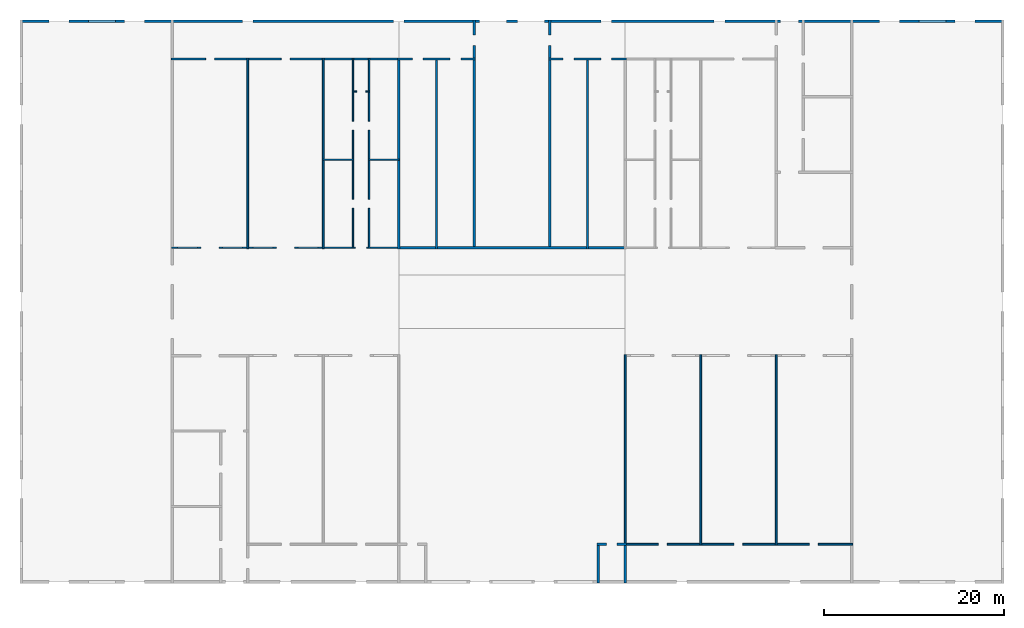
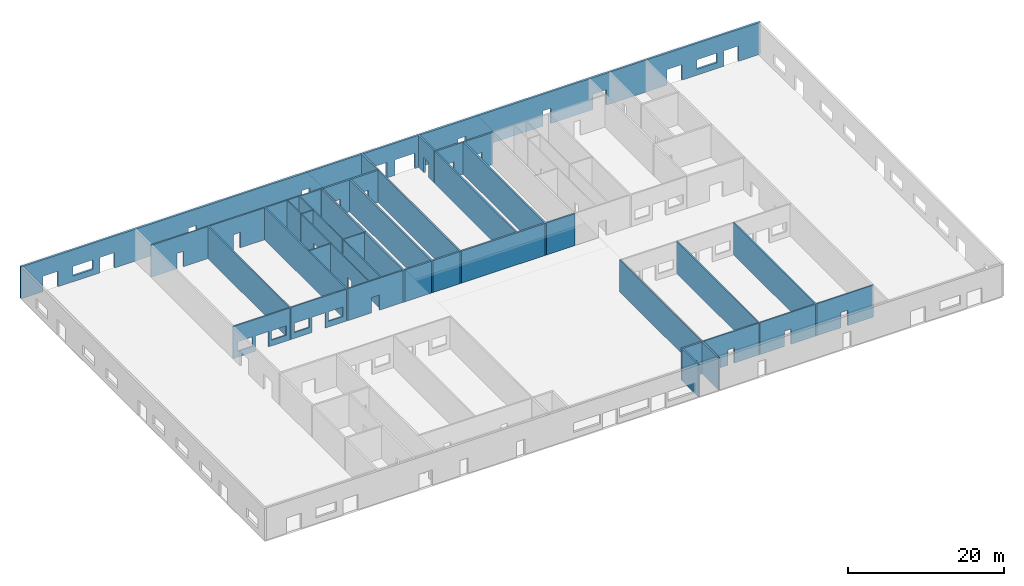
# One storey, part 2 of 3: 25 walls, 46 openings.
"""IFC4 building model written with IfcOpenShell, lengths in millimetres."""

from ifc_helpers import new_model, si_unit, frame, origin_with_axes, place, context, subcontext, project, spatial, indexed_curve, outline, extrude, type_object, element, save


model = new_model("IFC4")

# Units and contexts
model_context = context("Model", 3, precision=1e-05, world=origin_with_axes())
body_context = subcontext(model_context, "Body", "Model", "MODEL_VIEW")
ifc_project = project(units=[si_unit("AREAUNIT", "SQUARE_METRE"), si_unit("VOLUMEUNIT", "CUBIC_METRE"), si_unit("LENGTHUNIT", "METRE", prefix="MILLI")], contexts=[model_context])

# Site, building, storey
site = spatial("IfcSite", under=ifc_project, Name="PIN 00000000 (sample)")
building = spatial("IfcBuilding", under=site, Name="Sample Shopping Mall")
storey = spatial("IfcBuildingStorey", under=building, Name="Ground Floor", Elevation=0.0)

# Wall, openings
wall_type_1 = type_object("IfcWallType", Name="WT-300", PredefinedType="SOLIDWALL")
wall_1_placement = place(None, frame((5250.0, 77849.99999999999, 0.0), z_axis=(0.0, 0.0, 1.0), x_axis=(1.0, 0.0, 0.0)))
wall_1 = element("IfcWall", 1, at=wall_1_placement, inside=storey, type_object=wall_type_1, Name="W26", context=body_context, shape_type="SweptSolid", body=[
    extrude(outline(indexed_curve([(0.0, 0.0), (0.0, 300.0), (109499.99999999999, 300.0), (109499.99999999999, 0.0), (0.0, 0.0)], self_intersect=False)), origin_with_axes(), (0.0, 0.0, 1.0), 5000.0),
])
opening_1_placement = place(wall_1_placement, frame((3250.0, -99.9999999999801, 0.0), z_axis=(0.0, 0.0, 1.0), x_axis=(1.0, 0.0, 0.0)))
element("IfcOpeningElement", 2, at=opening_1_placement, cuts=wall_1, Name="D12-opening", context=body_context, shape_type="SweptSolid", body=[
    extrude(outline(indexed_curve([(0.0, 0.0), (0.0, 500.0), (1100.0, 500.0), (1100.0, 0.0), (0.0, 0.0)], self_intersect=False)), origin_with_axes(), (0.0, 0.0, 1.0), 2400.0),
])
opening_2_placement = place(wall_1_placement, frame((4350.000000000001, -99.9999999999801, 0.0), z_axis=(0.0, 0.0, 1.0), x_axis=(1.0, 0.0, 0.0)))
element("IfcOpeningElement", 3, at=opening_2_placement, cuts=wall_1, Name="-opening", context=body_context, shape_type="SweptSolid", body=[
    extrude(outline(indexed_curve([(0.0, 0.0), (0.0, 500.0), (1100.0, 500.0), (1100.0, 0.0), (0.0, 0.0)], self_intersect=False)), origin_with_axes(), (0.0, 0.0, 1.0), 2400.0),
])
opening_3_placement = place(wall_1_placement, frame((11649.999999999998, -99.9999999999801, 0.0), z_axis=(0.0, 0.0, 1.0), x_axis=(1.0, 0.0, 0.0)))
element("IfcOpeningElement", 4, at=opening_3_placement, cuts=wall_1, Name="D13-opening", context=body_context, shape_type="SweptSolid", body=[
    extrude(outline(indexed_curve([(0.0, 0.0), (0.0, 500.0), (1100.0, 500.0), (1100.0, 0.0), (0.0, 0.0)], self_intersect=False)), origin_with_axes(), (0.0, 0.0, 1.0), 2400.0),
])
opening_4_placement = place(wall_1_placement, frame((12750.0, -99.9999999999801, 0.0), z_axis=(0.0, 0.0, 1.0), x_axis=(1.0, 0.0, 0.0)))
element("IfcOpeningElement", 5, at=opening_4_placement, cuts=wall_1, Name="-opening", context=body_context, shape_type="SweptSolid", body=[
    extrude(outline(indexed_curve([(0.0, 0.0), (0.0, 500.0), (1100.0, 500.0), (1100.0, 0.0), (0.0, 0.0)], self_intersect=False)), origin_with_axes(), (0.0, 0.0, 1.0), 2400.0),
])
opening_5_placement = place(wall_1_placement, frame((95650.0, -99.9999999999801, 0.0), z_axis=(0.0, 0.0, 1.0), x_axis=(1.0, 0.0, 0.0)))
element("IfcOpeningElement", 6, at=opening_5_placement, cuts=wall_1, Name="D21-opening", context=body_context, shape_type="SweptSolid", body=[
    extrude(outline(indexed_curve([(0.0, 0.0), (0.0, 500.0), (1100.0, 500.0), (1100.0, 0.0), (0.0, 0.0)], self_intersect=False)), origin_with_axes(), (0.0, 0.0, 1.0), 2400.0),
])
opening_6_placement = place(wall_1_placement, frame((96750.0, -99.9999999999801, 0.0), z_axis=(0.0, 0.0, 1.0), x_axis=(1.0, 0.0, 0.0)))
element("IfcOpeningElement", 7, at=opening_6_placement, cuts=wall_1, Name="-opening", context=body_context, shape_type="SweptSolid", body=[
    extrude(outline(indexed_curve([(0.0, 0.0), (0.0, 500.0), (1100.0, 500.0), (1100.0, 0.0), (0.0, 0.0)], self_intersect=False)), origin_with_axes(), (0.0, 0.0, 1.0), 2400.0),
])
opening_7_placement = place(wall_1_placement, frame((104050.00000000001, -99.9999999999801, 0.0), z_axis=(0.0, 0.0, 1.0), x_axis=(1.0, 0.0, 0.0)))
element("IfcOpeningElement", 8, at=opening_7_placement, cuts=wall_1, Name="D22-opening", context=body_context, shape_type="SweptSolid", body=[
    extrude(outline(indexed_curve([(0.0, 0.0), (0.0, 500.0), (1100.0, 500.0), (1100.0, 0.0), (0.0, 0.0)], self_intersect=False)), origin_with_axes(), (0.0, 0.0, 1.0), 2400.0),
])
opening_8_placement = place(wall_1_placement, frame((105150.0, -99.9999999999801, 0.0), z_axis=(0.0, 0.0, 1.0), x_axis=(1.0, 0.0, 0.0)))
element("IfcOpeningElement", 9, at=opening_8_placement, cuts=wall_1, Name="-opening", context=body_context, shape_type="SweptSolid", body=[
    extrude(outline(indexed_curve([(0.0, 0.0), (0.0, 500.0), (1100.0, 500.0), (1100.0, 0.0), (0.0, 0.0)], self_intersect=False)), origin_with_axes(), (0.0, 0.0, 1.0), 2400.0),
])
opening_9_placement = place(wall_1_placement, frame((24750.0, -99.9999999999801, 0.0), z_axis=(0.0, 0.0, 1.0), x_axis=(1.0, 0.0, 0.0)))
element("IfcOpeningElement", 10, at=opening_9_placement, cuts=wall_1, Name="D27-opening", context=body_context, shape_type="SweptSolid", body=[
    extrude(outline(indexed_curve([(0.0, 0.0), (0.0, 500.0), (1200.0, 500.0), (1200.0, 0.0), (0.0, 0.0)], self_intersect=False)), origin_with_axes(), (0.0, 0.0, 1.0), 2400.0),
])
opening_10_placement = place(wall_1_placement, frame((41549.99999999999, -99.9999999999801, 0.0), z_axis=(0.0, 0.0, 1.0), x_axis=(1.0, 0.0, 0.0)))
element("IfcOpeningElement", 11, at=opening_10_placement, cuts=wall_1, Name="D28-opening", context=body_context, shape_type="SweptSolid", body=[
    extrude(outline(indexed_curve([(0.0, 0.0), (0.0, 500.0), (1200.0, 500.0), (1200.0, 0.0), (0.0, 0.0)], self_intersect=False)), origin_with_axes(), (0.0, 0.0, 1.0), 2400.0),
])
opening_11_placement = place(wall_1_placement, frame((64650.00000000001, -99.9999999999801, 0.0), z_axis=(0.0, 0.0, 1.0), x_axis=(1.0, 0.0, 0.0)))
element("IfcOpeningElement", 12, at=opening_11_placement, cuts=wall_1, Name="D29-opening", context=body_context, shape_type="SweptSolid", body=[
    extrude(outline(indexed_curve([(0.0, 0.0), (0.0, 500.0), (1200.0, 500.0), (1200.0, 0.0), (0.0, 0.0)], self_intersect=False)), origin_with_axes(), (0.0, 0.0, 1.0), 2400.0),
])
opening_12_placement = place(wall_1_placement, frame((77250.0, -99.9999999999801, 0.0), z_axis=(0.0, 0.0, 1.0), x_axis=(1.0, 0.0, 0.0)))
element("IfcOpeningElement", 13, at=opening_12_placement, cuts=wall_1, Name="D30-opening", context=body_context, shape_type="SweptSolid", body=[
    extrude(outline(indexed_curve([(0.0, 0.0), (0.0, 500.0), (1200.0, 500.0), (1200.0, 0.0), (0.0, 0.0)], self_intersect=False)), origin_with_axes(), (0.0, 0.0, 1.0), 2400.0),
])
opening_13_placement = place(wall_1_placement, frame((51150.0, -99.9999999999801, 0.0), z_axis=(0.0, 0.0, 1.0), x_axis=(1.0, 0.0, 0.0)))
element("IfcOpeningElement", 14, at=opening_13_placement, cuts=wall_1, Name="D59-opening", context=body_context, shape_type="SweptSolid", body=[
    extrude(outline(indexed_curve([(0.0, 0.0), (0.0, 500.0), (1500.0, 500.0), (1500.0, 0.0), (0.0, 0.0)], self_intersect=False)), origin_with_axes(), (0.0, 0.0, 1.0), 2400.0),
])
opening_14_placement = place(wall_1_placement, frame((52650.0, -99.9999999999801, 0.0), z_axis=(0.0, 0.0, 1.0), x_axis=(1.0, 0.0, 0.0)))
element("IfcOpeningElement", 15, at=opening_14_placement, cuts=wall_1, Name="-opening", context=body_context, shape_type="SweptSolid", body=[
    extrude(outline(indexed_curve([(0.0, 0.0), (0.0, 500.0), (1500.0, 500.0), (1500.0, 0.0), (0.0, 0.0)], self_intersect=False)), origin_with_axes(), (0.0, 0.0, 1.0), 2400.0),
])
opening_15_placement = place(wall_1_placement, frame((55350.0, -99.9999999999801, 0.0), z_axis=(0.0, 0.0, 1.0), x_axis=(1.0, 0.0, 0.0)))
element("IfcOpeningElement", 16, at=opening_15_placement, cuts=wall_1, Name="D60-opening", context=body_context, shape_type="SweptSolid", body=[
    extrude(outline(indexed_curve([(0.0, 0.0), (0.0, 500.0), (1500.0, 500.0), (1500.0, 0.0), (0.0, 0.0)], self_intersect=False)), origin_with_axes(), (0.0, 0.0, 1.0), 2400.0),
])
opening_16_placement = place(wall_1_placement, frame((56850.0, -99.9999999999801, 0.0), z_axis=(0.0, 0.0, 1.0), x_axis=(1.0, 0.0, 0.0)))
element("IfcOpeningElement", 17, at=opening_16_placement, cuts=wall_1, Name="-opening", context=body_context, shape_type="SweptSolid", body=[
    extrude(outline(indexed_curve([(0.0, 0.0), (0.0, 500.0), (1500.0, 500.0), (1500.0, 0.0), (0.0, 0.0)], self_intersect=False)), origin_with_axes(), (0.0, 0.0, 1.0), 2400.0),
])
opening_17_placement = place(wall_1_placement, frame((84650.0, -99.9999999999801, 0.0), z_axis=(0.0, 0.0, 1.0), x_axis=(1.0, 0.0, 0.0)))
element("IfcOpeningElement", 18, at=opening_17_placement, cuts=wall_1, Name="D75-opening", context=body_context, shape_type="SweptSolid", body=[
    extrude(outline(indexed_curve([(0.0, 0.0), (0.0, 500.0), (1000.0, 500.0), (1000.0, 0.0), (0.0, 0.0)], self_intersect=False)), origin_with_axes(), (0.0, 0.0, 1.0), 2400.0),
])
opening_18_placement = place(wall_1_placement, frame((85650.0, -99.9999999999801, 0.0), z_axis=(0.0, 0.0, 1.0), x_axis=(1.0, 0.0, 0.0)))
element("IfcOpeningElement", 19, at=opening_18_placement, cuts=wall_1, Name="-opening", context=body_context, shape_type="SweptSolid", body=[
    extrude(outline(indexed_curve([(0.0, 0.0), (0.0, 500.0), (1000.0, 500.0), (1000.0, 0.0), (0.0, 0.0)], self_intersect=False)), origin_with_axes(), (0.0, 0.0, 1.0), 2400.0),
])
opening_19_placement = place(wall_1_placement, frame((7650.0, -99.9999999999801, 900.0), z_axis=(0.0, 0.0, 1.0), x_axis=(1.0, 0.0, 0.0)))
element("IfcOpeningElement", 20, at=opening_19_placement, cuts=wall_1, Name="-opening", context=body_context, shape_type="SweptSolid", body=[
    extrude(outline(indexed_curve([(0.0, 0.0), (0.0, 500.0), (3000.0, 500.0), (3000.0, 0.0), (0.0, 0.0)], self_intersect=False)), origin_with_axes(), (0.0, 0.0, 1.0), 1500.0),
])
opening_20_placement = place(wall_1_placement, frame((100050.00000000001, -99.9999999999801, 900.0), z_axis=(0.0, 0.0, 1.0), x_axis=(1.0, 0.0, 0.0)))
element("IfcOpeningElement", 21, at=opening_20_placement, cuts=wall_1, Name="-opening", context=body_context, shape_type="SweptSolid", body=[
    extrude(outline(indexed_curve([(0.0, 0.0), (0.0, 500.0), (3000.0, 500.0), (3000.0, 0.0), (0.0, 0.0)], self_intersect=False)), origin_with_axes(), (0.0, 0.0, 1.0), 1500.0),
])

wall_type_2 = type_object("IfcWallType", Name="WT-200", PredefinedType="SOLIDWALL")
wall_2_placement = place(None, frame((72500.0, 19700.0, 0.0), z_axis=(0.0, 0.0, 1.0), x_axis=(1.0, 0.0, 0.0)))
wall_2 = element("IfcWall", 22, at=wall_2_placement, inside=storey, type_object=wall_type_2, Name="W4", context=body_context, shape_type="SweptSolid", body=[
    extrude(outline(indexed_curve([(0.0, 0.0), (0.0, 200.0), (25400.0, 200.0), (25400.0, 0.0), (0.0, 0.0)], self_intersect=False)), origin_with_axes(), (0.0, 0.0, 1.0), 5000.0),
])
opening_21_placement = place(wall_2_placement, frame((3799.9999999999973, -99.99999999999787, 0.0), z_axis=(0.0, 0.0, 1.0), x_axis=(1.0, 0.0, 0.0)))
element("IfcOpeningElement", 23, at=opening_21_placement, cuts=wall_2, Name="-opening", context=body_context, shape_type="SweptSolid", body=[
    extrude(outline(indexed_curve([(0.0, 0.0), (0.0, 400.0), (1000.0, 400.0), (1000.0, 0.0), (0.0, 0.0)], self_intersect=False)), origin_with_axes(), (0.0, 0.0, 1.0), 2400.0),
])
opening_22_placement = place(wall_2_placement, frame((12199.999999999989, -99.99999999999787, 0.0), z_axis=(0.0, 0.0, 1.0), x_axis=(1.0, 0.0, 0.0)))
element("IfcOpeningElement", 24, at=opening_22_placement, cuts=wall_2, Name="-opening", context=body_context, shape_type="SweptSolid", body=[
    extrude(outline(indexed_curve([(0.0, 0.0), (0.0, 400.0), (1000.0, 400.0), (1000.0, 0.0), (0.0, 0.0)], self_intersect=False)), origin_with_axes(), (0.0, 0.0, 1.0), 2400.0),
])
opening_23_placement = place(wall_2_placement, frame((20599.999999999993, -99.99999999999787, 0.0), z_axis=(0.0, 0.0, 1.0), x_axis=(1.0, 0.0, 0.0)))
element("IfcOpeningElement", 25, at=opening_23_placement, cuts=wall_2, Name="-opening", context=body_context, shape_type="SweptSolid", body=[
    extrude(outline(indexed_curve([(0.0, 0.0), (0.0, 400.0), (1000.0, 400.0), (1000.0, 0.0), (0.0, 0.0)], self_intersect=False)), origin_with_axes(), (0.0, 0.0, 1.0), 2400.0),
])

wall_3_placement = place(None, frame((22099.999999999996, 52699.99999999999, 0.0), z_axis=(0.0, 0.0, 1.0), x_axis=(1.0, 0.0, 0.0)))
wall_3 = element("IfcWall", 26, at=wall_3_placement, inside=storey, type_object=wall_type_2, Name="W10", context=body_context, shape_type="SweptSolid", body=[
    extrude(outline(indexed_curve([(0.0, 0.0), (0.0, 200.0), (25399.999999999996, 200.0), (25399.999999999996, 0.0), (0.0, 0.0)], self_intersect=False)), origin_with_axes(), (0.0, 0.0, 1.0), 5000.0),
])
opening_24_placement = place(wall_3_placement, frame((3300.0000000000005, -100.00000000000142, 0.0), z_axis=(0.0, 0.0, 1.0), x_axis=(1.0, 0.0, 0.0)))
element("IfcOpeningElement", 27, at=opening_24_placement, cuts=wall_3, Name="D47-opening", context=body_context, shape_type="SweptSolid", body=[
    extrude(outline(indexed_curve([(0.0, 0.0), (0.0, 400.0), (1000.0, 400.0), (1000.0, 0.0), (0.0, 0.0)], self_intersect=False)), origin_with_axes(), (0.0, 0.0, 1.0), 2400.0),
])
opening_25_placement = place(wall_3_placement, frame((4300.000000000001, -100.00000000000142, 0.0), z_axis=(0.0, 0.0, 1.0), x_axis=(1.0, 0.0, 0.0)))
element("IfcOpeningElement", 28, at=opening_25_placement, cuts=wall_3, Name="-opening", context=body_context, shape_type="SweptSolid", body=[
    extrude(outline(indexed_curve([(0.0, 0.0), (0.0, 400.0), (1000.0, 400.0), (1000.0, 0.0), (0.0, 0.0)], self_intersect=False)), origin_with_axes(), (0.0, 0.0, 1.0), 2400.0),
])
opening_26_placement = place(wall_3_placement, frame((11699.999999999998, -100.00000000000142, 0.0), z_axis=(0.0, 0.0, 1.0), x_axis=(1.0, 0.0, 0.0)))
element("IfcOpeningElement", 29, at=opening_26_placement, cuts=wall_3, Name="D49-opening", context=body_context, shape_type="SweptSolid", body=[
    extrude(outline(indexed_curve([(0.0, 0.0), (0.0, 400.0), (1000.0, 400.0), (1000.0, 0.0), (0.0, 0.0)], self_intersect=False)), origin_with_axes(), (0.0, 0.0, 1.0), 2400.0),
])
opening_27_placement = place(wall_3_placement, frame((12700.000000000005, -100.00000000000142, 0.0), z_axis=(0.0, 0.0, 1.0), x_axis=(1.0, 0.0, 0.0)))
element("IfcOpeningElement", 30, at=opening_27_placement, cuts=wall_3, Name="-opening", context=body_context, shape_type="SweptSolid", body=[
    extrude(outline(indexed_curve([(0.0, 0.0), (0.0, 400.0), (1000.0, 400.0), (1000.0, 0.0), (0.0, 0.0)], self_intersect=False)), origin_with_axes(), (0.0, 0.0, 1.0), 2400.0),
])
opening_28_placement = place(wall_3_placement, frame((20499.999999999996, -100.00000000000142, 0.0), z_axis=(0.0, 0.0, 1.0), x_axis=(1.0, 0.0, 0.0)))
element("IfcOpeningElement", 31, at=opening_28_placement, cuts=wall_3, Name="D51-opening", context=body_context, shape_type="SweptSolid", body=[
    extrude(outline(indexed_curve([(0.0, 0.0), (0.0, 400.0), (1200.0, 400.0), (1200.0, 0.0), (0.0, 0.0)], self_intersect=False)), origin_with_axes(), (0.0, 0.0, 1.0), 2400.0),
])
opening_29_placement = place(wall_3_placement, frame((700.0000000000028, -100.00000000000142, 900.0), z_axis=(0.0, 0.0, 1.0), x_axis=(1.0, 0.0, 0.0)))
element("IfcOpeningElement", 32, at=opening_29_placement, cuts=wall_3, Name="-opening", context=body_context, shape_type="SweptSolid", body=[
    extrude(outline(indexed_curve([(0.0, 0.0), (0.0, 400.0), (2200.0, 400.0), (2200.0, 0.0), (0.0, 0.0)], self_intersect=False)), origin_with_axes(), (0.0, 0.0, 1.0), 1500.0),
])
opening_30_placement = place(wall_3_placement, frame((5699.999999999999, -100.00000000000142, 900.0), z_axis=(0.0, 0.0, 1.0), x_axis=(1.0, 0.0, 0.0)))
element("IfcOpeningElement", 33, at=opening_30_placement, cuts=wall_3, Name="-opening", context=body_context, shape_type="SweptSolid", body=[
    extrude(outline(indexed_curve([(0.0, 0.0), (0.0, 400.0), (2200.0, 400.0), (2200.0, 0.0), (0.0, 0.0)], self_intersect=False)), origin_with_axes(), (0.0, 0.0, 1.0), 1500.0),
])
opening_31_placement = place(wall_3_placement, frame((9100.000000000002, -100.00000000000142, 900.0), z_axis=(0.0, 0.0, 1.0), x_axis=(1.0, 0.0, 0.0)))
element("IfcOpeningElement", 34, at=opening_31_placement, cuts=wall_3, Name="-opening", context=body_context, shape_type="SweptSolid", body=[
    extrude(outline(indexed_curve([(0.0, 0.0), (0.0, 400.0), (2200.0, 400.0), (2200.0, 0.0), (0.0, 0.0)], self_intersect=False)), origin_with_axes(), (0.0, 0.0, 1.0), 1500.0),
])
opening_32_placement = place(wall_3_placement, frame((14100.000000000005, -100.00000000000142, 900.0), z_axis=(0.0, 0.0, 1.0), x_axis=(1.0, 0.0, 0.0)))
element("IfcOpeningElement", 35, at=opening_32_placement, cuts=wall_3, Name="-opening", context=body_context, shape_type="SweptSolid", body=[
    extrude(outline(indexed_curve([(0.0, 0.0), (0.0, 400.0), (2200.0, 400.0), (2200.0, 0.0), (0.0, 0.0)], self_intersect=False)), origin_with_axes(), (0.0, 0.0, 1.0), 1500.0),
])

wall_4_placement = place(None, frame((22099.999999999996, 73700.0, 0.0), z_axis=(0.0, 0.0, 1.0), x_axis=(1.0, 0.0, 0.0)))
wall_4 = element("IfcWall", 36, at=wall_4_placement, inside=storey, type_object=wall_type_2, Name="W22", context=body_context, shape_type="SweptSolid", body=[
    extrude(outline(indexed_curve([(0.0, 0.0), (0.0, 200.0), (25399.999999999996, 200.0), (25399.999999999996, 0.0), (0.0, 0.0)], self_intersect=False)), origin_with_axes(), (0.0, 0.0, 1.0), 5000.0),
])
opening_33_placement = place(wall_4_placement, frame((3800.0000000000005, -99.99999999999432, 0.0), z_axis=(0.0, 0.0, 1.0), x_axis=(1.0, 0.0, 0.0)))
element("IfcOpeningElement", 37, at=opening_33_placement, cuts=wall_4, Name="-opening", context=body_context, shape_type="SweptSolid", body=[
    extrude(outline(indexed_curve([(0.0, 0.0), (0.0, 400.0), (1000.0, 400.0), (1000.0, 0.0), (0.0, 0.0)], self_intersect=False)), origin_with_axes(), (0.0, 0.0, 1.0), 2400.0),
])
opening_34_placement = place(wall_4_placement, frame((12200.000000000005, -99.99999999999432, 0.0), z_axis=(0.0, 0.0, 1.0), x_axis=(1.0, 0.0, 0.0)))
element("IfcOpeningElement", 38, at=opening_34_placement, cuts=wall_4, Name="-opening", context=body_context, shape_type="SweptSolid", body=[
    extrude(outline(indexed_curve([(0.0, 0.0), (0.0, 400.0), (1000.0, 400.0), (1000.0, 0.0), (0.0, 0.0)], self_intersect=False)), origin_with_axes(), (0.0, 0.0, 1.0), 2400.0),
])

# Walls
for number, where, z_axis, x_axis, name in (
    (39, (30700.000000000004, 52699.99999999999, 0.0), (0.0, 0.0, 1.0), (6.123233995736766e-17, 1.0, 0.0), "W31"),
    (40, (39100.0, 52699.99999999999, 0.0), (0.0, 0.0, 1.0), (6.123233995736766e-17, 1.0, 0.0), "W33"),
):
    element("IfcWall", number, at=place(None, frame(where, z_axis=z_axis, x_axis=x_axis)), inside=storey, type_object=wall_type_2, Name=name, context=body_context, shape_type="SweptSolid", body=[
        extrude(outline(indexed_curve([(0.0, 0.0), (0.0, 200.0), (21200.0, 200.0), (21200.0, 0.0), (0.0, 0.0)], self_intersect=False)), origin_with_axes(), (0.0, 0.0, 1.0), 5000.0),
    ])
for number, where, z_axis, x_axis, name in (
    (41, (72699.99999999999, 19700.0, 0.0), (0.0, 0.0, 1.0), (6.123233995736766e-17, 1.0, 0.0), "W46"),
    (42, (81099.99999999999, 19700.0, 0.0), (0.0, 0.0, 1.0), (6.123233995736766e-17, 1.0, 0.0), "W50"),
    (43, (89500.0, 19700.0, 0.0), (0.0, 0.0, 1.0), (6.123233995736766e-17, 1.0, 0.0), "W52"),
):
    element("IfcWall", number, at=place(None, frame(where, z_axis=z_axis, x_axis=x_axis)), inside=storey, type_object=wall_type_2, Name=name, context=body_context, shape_type="SweptSolid", body=[
        extrude(outline(indexed_curve([(0.0, 0.0), (0.0, 200.0), (21199.999999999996, 200.0), (21199.999999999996, 0.0), (0.0, 0.0)], self_intersect=False)), origin_with_axes(), (0.0, 0.0, 1.0), 5000.0),
    ])

# Wall, opening
wall_type_3 = type_object("IfcWallType", Name="WT-250", PredefinedType="SOLIDWALL")
wall_5_placement = place(None, frame((69475.0, 19675.0, 0.0), z_axis=(0.0, 0.0, 1.0), x_axis=(1.0, 0.0, 0.0)))
wall_5 = element("IfcWall", 44, at=wall_5_placement, inside=storey, type_object=wall_type_3, Name="W3", context=body_context, shape_type="SweptSolid", body=[
    extrude(outline(indexed_curve([(0.0, 0.0), (0.0, 250.0), (3250.0, 250.0), (3250.0, 0.0), (0.0, 0.0)], self_intersect=False)), origin_with_axes(), (0.0, 0.0, 1.0), 5000.0),
])
opening_35_placement = place(wall_5_placement, frame((1024.9999999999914, -100.00000000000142, 0.0), z_axis=(0.0, 0.0, 1.0), x_axis=(1.0, 0.0, 0.0)))
element("IfcOpeningElement", 45, at=opening_35_placement, cuts=wall_5, Name="D02-opening", context=body_context, shape_type="SweptSolid", body=[
    extrude(outline(indexed_curve([(0.0, 0.0), (0.0, 450.0), (1200.0, 450.0), (1200.0, 0.0), (0.0, 0.0)], self_intersect=False)), origin_with_axes(), (0.0, 0.0, 1.0), 2400.0),
])

# Wall
wall_6_placement = place(None, frame((47275.0, 52674.99999999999, 0.0), z_axis=(0.0, 0.0, 1.0), x_axis=(1.0, 0.0, 0.0)))
element("IfcWall", 46, at=wall_6_placement, inside=storey, type_object=wall_type_3, Name="W11", context=body_context, shape_type="SweptSolid", body=[
    extrude(outline(indexed_curve([(0.0, 0.0), (0.0, 250.0), (25449.999999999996, 250.0), (25449.999999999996, 0.0), (0.0, 0.0)], self_intersect=False)), origin_with_axes(), (0.0, 0.0, 1.0), 5000.0),
])

# Wall, openings
wall_7_placement = place(None, frame((47275.0, 73675.0, 0.0), z_axis=(0.0, 0.0, 1.0), x_axis=(1.0, 0.0, 0.0)))
wall_7 = element("IfcWall", 47, at=wall_7_placement, inside=storey, type_object=wall_type_3, Name="W23", context=body_context, shape_type="SweptSolid", body=[
    extrude(outline(indexed_curve([(0.0, 0.0), (0.0, 250.0), (8649.999999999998, 250.0), (8649.999999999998, 0.0), (0.0, 0.0)], self_intersect=False)), origin_with_axes(), (0.0, 0.0, 1.0), 5000.0),
])
opening_36_placement = place(wall_7_placement, frame((1625.0, -99.99999999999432, 0.0), z_axis=(0.0, 0.0, 1.0), x_axis=(1.0, 0.0, 0.0)))
element("IfcOpeningElement", 48, at=opening_36_placement, cuts=wall_7, Name="-opening", context=body_context, shape_type="SweptSolid", body=[
    extrude(outline(indexed_curve([(0.0, 0.0), (0.0, 450.0), (1200.0, 450.0), (1200.0, 0.0), (0.0, 0.0)], self_intersect=False)), origin_with_axes(), (0.0, 0.0, 1.0), 2400.0),
])
opening_37_placement = place(wall_7_placement, frame((5825.000000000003, -99.99999999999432, 0.0), z_axis=(0.0, 0.0, 1.0), x_axis=(1.0, 0.0, 0.0)))
element("IfcOpeningElement", 49, at=opening_37_placement, cuts=wall_7, Name="-opening", context=body_context, shape_type="SweptSolid", body=[
    extrude(outline(indexed_curve([(0.0, 0.0), (0.0, 450.0), (1200.0, 450.0), (1200.0, 0.0), (0.0, 0.0)], self_intersect=False)), origin_with_axes(), (0.0, 0.0, 1.0), 2400.0),
])

wall_8_placement = place(None, frame((64075.0, 73675.0, 0.0), z_axis=(0.0, 0.0, 1.0), x_axis=(1.0, 0.0, 0.0)))
wall_8 = element("IfcWall", 50, at=wall_8_placement, inside=storey, type_object=wall_type_3, Name="W24", context=body_context, shape_type="SweptSolid", body=[
    extrude(outline(indexed_curve([(0.0, 0.0), (0.0, 250.0), (8649.99999999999, 250.0), (8649.99999999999, 0.0), (0.0, 0.0)], self_intersect=False)), origin_with_axes(), (0.0, 0.0, 1.0), 5000.0),
])
opening_38_placement = place(wall_8_placement, frame((1625.0, -99.99999999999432, 0.0), z_axis=(0.0, 0.0, 1.0), x_axis=(1.0, 0.0, 0.0)))
element("IfcOpeningElement", 51, at=opening_38_placement, cuts=wall_8, Name="-opening", context=body_context, shape_type="SweptSolid", body=[
    extrude(outline(indexed_curve([(0.0, 0.0), (0.0, 450.0), (1200.0, 450.0), (1200.0, 0.0), (0.0, 0.0)], self_intersect=False)), origin_with_axes(), (0.0, 0.0, 1.0), 2400.0),
])
opening_39_placement = place(wall_8_placement, frame((5825.000000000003, -99.99999999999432, 0.0), z_axis=(0.0, 0.0, 1.0), x_axis=(1.0, 0.0, 0.0)))
element("IfcOpeningElement", 52, at=opening_39_placement, cuts=wall_8, Name="-opening", context=body_context, shape_type="SweptSolid", body=[
    extrude(outline(indexed_curve([(0.0, 0.0), (0.0, 450.0), (1200.0, 450.0), (1200.0, 0.0), (0.0, 0.0)], self_intersect=False)), origin_with_axes(), (0.0, 0.0, 1.0), 2400.0),
])

# Walls
for number, where, z_axis, x_axis, name in (
    (53, (47525.0, 52674.99999999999, 0.0), (0.0, 0.0, 1.0), (6.123233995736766e-17, 1.0, 0.0), "W38"),
    (54, (51725.0, 52674.99999999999, 0.0), (0.0, 0.0, 1.0), (6.123233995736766e-17, 1.0, 0.0), "W40"),
):
    element("IfcWall", number, at=place(None, frame(where, z_axis=z_axis, x_axis=x_axis)), inside=storey, type_object=wall_type_3, Name=name, context=body_context, shape_type="SweptSolid", body=[
        extrude(outline(indexed_curve([(0.0, 0.0), (0.0, 250.0), (21250.0, 250.0), (21250.0, 0.0), (0.0, 0.0)], self_intersect=False)), origin_with_axes(), (0.0, 0.0, 1.0), 5000.0),
    ])

# Wall, opening
wall_9_placement = place(None, frame((55924.99999999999, 52674.99999999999, 0.0), z_axis=(0.0, 0.0, 1.0), x_axis=(6.123233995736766e-17, 1.0, 0.0)))
wall_9 = element("IfcWall", 55, at=wall_9_placement, inside=storey, type_object=wall_type_3, Name="W41", context=body_context, shape_type="SweptSolid", body=[
    extrude(outline(indexed_curve([(0.0, 0.0), (0.0, 250.0), (25450.000000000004, 250.0), (25450.000000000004, 0.0), (0.0, 0.0)], self_intersect=False)), origin_with_axes(), (0.0, 0.0, 1.0), 5000.0),
])
opening_40_placement = place(wall_9_placement, frame((22625.0, -99.99999999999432, 0.0), z_axis=(0.0, 0.0, 1.0), x_axis=(1.0, 0.0, 0.0)))
element("IfcOpeningElement", 56, at=opening_40_placement, cuts=wall_9, Name="-opening", context=body_context, shape_type="SweptSolid", body=[
    extrude(outline(indexed_curve([(0.0, 0.0), (0.0, 450.0), (1200.0, 450.0), (1200.0, 0.0), (0.0, 0.0)], self_intersect=False)), origin_with_axes(), (0.0, 0.0, 1.0), 2400.0),
])

wall_10_placement = place(None, frame((64325.0, 52674.99999999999, 0.0), z_axis=(0.0, 0.0, 1.0), x_axis=(6.123233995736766e-17, 1.0, 0.0)))
wall_10 = element("IfcWall", 57, at=wall_10_placement, inside=storey, type_object=wall_type_3, Name="W42", context=body_context, shape_type="SweptSolid", body=[
    extrude(outline(indexed_curve([(0.0, 0.0), (0.0, 250.0), (25450.000000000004, 250.0), (25450.000000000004, 0.0), (0.0, 0.0)], self_intersect=False)), origin_with_axes(), (0.0, 0.0, 1.0), 5000.0),
])
opening_41_placement = place(wall_10_placement, frame((22624.999999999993, -99.99999999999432, 0.0), z_axis=(0.0, 0.0, 1.0), x_axis=(1.0, 0.0, 0.0)))
element("IfcOpeningElement", 58, at=opening_41_placement, cuts=wall_10, Name="-opening", context=body_context, shape_type="SweptSolid", body=[
    extrude(outline(indexed_curve([(0.0, 0.0), (0.0, 450.0), (1200.0, 450.0), (1200.0, 0.0), (0.0, 0.0)], self_intersect=False)), origin_with_axes(), (0.0, 0.0, 1.0), 2400.0),
])

# Walls
wall_11_placement = place(None, frame((68525.0, 52674.99999999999, 0.0), z_axis=(0.0, 0.0, 1.0), x_axis=(6.123233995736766e-17, 1.0, 0.0)))
element("IfcWall", 59, at=wall_11_placement, inside=storey, type_object=wall_type_3, Name="W43", context=body_context, shape_type="SweptSolid", body=[
    extrude(outline(indexed_curve([(0.0, 0.0), (0.0, 250.0), (21250.0, 250.0), (21250.0, 0.0), (0.0, 0.0)], self_intersect=False)), origin_with_axes(), (0.0, 0.0, 1.0), 5000.0),
])
for number, where, z_axis, x_axis, name in (
    (60, (69725.0, 15475.0, 0.0), (0.0, 0.0, 1.0), (6.123233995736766e-17, 1.0, 0.0), "W44"),
    (61, (72725.0, 15475.0, 0.0), (0.0, 0.0, 1.0), (6.123233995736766e-17, 1.0, 0.0), "W45"),
):
    element("IfcWall", number, at=place(None, frame(where, z_axis=z_axis, x_axis=x_axis)), inside=storey, type_object=wall_type_3, Name=name, context=body_context, shape_type="SweptSolid", body=[
        extrude(outline(indexed_curve([(0.0, 0.0), (0.0, 250.0), (4450.000000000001, 250.0), (4450.000000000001, 0.0), (0.0, 0.0)], self_intersect=False)), origin_with_axes(), (0.0, 0.0, 1.0), 5000.0),
    ])
wall_type_4 = type_object("IfcWallType", Name="WT-150", PredefinedType="SOLIDWALL")
for number, where, z_axis, x_axis, name in (
    (62, (38924.99999999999, 62525.0, 0.0), (0.0, 0.0, 1.0), (1.0, 0.0, 0.0), "W15"),
    (63, (44025.0, 62525.0, 0.0), (0.0, 0.0, 1.0), (1.0, 0.0, 0.0), "W16"),
):
    element("IfcWall", number, at=place(None, frame(where, z_axis=z_axis, x_axis=x_axis)), inside=storey, type_object=wall_type_4, Name=name, context=body_context, shape_type="SweptSolid", body=[
        extrude(outline(indexed_curve([(0.0, 0.0), (0.0, 150.0), (3449.999999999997, 150.0), (3449.999999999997, 0.0), (0.0, 0.0)], self_intersect=False)), origin_with_axes(), (0.0, 0.0, 1.0), 5000.0),
    ])

# Wall, opening
wall_12_placement = place(None, frame((42224.99999999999, 70125.0, 0.0), z_axis=(0.0, 0.0, 1.0), x_axis=(1.0, 0.0, 0.0)))
wall_12 = element("IfcWall", 64, at=wall_12_placement, inside=storey, type_object=wall_type_4, Name="W20", context=body_context, shape_type="SweptSolid", body=[
    extrude(outline(indexed_curve([(0.0, 0.0), (0.0, 150.0), (1950.000000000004, 150.0), (1950.000000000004, 0.0), (0.0, 0.0)], self_intersect=False)), origin_with_axes(), (0.0, 0.0, 1.0), 5000.0),
])
opening_42_placement = place(wall_12_placement, frame((475.0000000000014, -99.99999999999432, 0.0), z_axis=(0.0, 0.0, 1.0), x_axis=(1.0, 0.0, 0.0)))
element("IfcOpeningElement", 65, at=opening_42_placement, cuts=wall_12, Name="-opening", context=body_context, shape_type="SweptSolid", body=[
    extrude(outline(indexed_curve([(0.0, 0.0), (0.0, 349.99999999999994), (1000.0, 349.99999999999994), (1000.0, 0.0), (0.0, 0.0)], self_intersect=False)), origin_with_axes(), (0.0, 0.0, 1.0), 2400.0),
])

# Wall, openings
wall_13_placement = place(None, frame((42375.0, 52724.99999999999, 0.0), z_axis=(0.0, 0.0, 1.0), x_axis=(6.123233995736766e-17, 1.0, 0.0)))
wall_13 = element("IfcWall", 66, at=wall_13_placement, inside=storey, type_object=wall_type_4, Name="W34", context=body_context, shape_type="SweptSolid", body=[
    extrude(outline(indexed_curve([(0.0, 0.0), (0.0, 150.0), (21149.999999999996, 150.0), (21149.999999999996, 0.0), (0.0, 0.0)], self_intersect=False)), origin_with_axes(), (0.0, 0.0, 1.0), 5000.0),
])
opening_43_placement = place(wall_13_placement, frame((4475.000000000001, -99.99999999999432, 0.0), z_axis=(0.0, 0.0, 1.0), x_axis=(1.0, 0.0, 0.0)))
element("IfcOpeningElement", 67, at=opening_43_placement, cuts=wall_13, Name="-opening", context=body_context, shape_type="SweptSolid", body=[
    extrude(outline(indexed_curve([(0.0, 0.0), (0.0, 349.99999999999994), (1000.0, 349.99999999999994), (1000.0, 0.0), (0.0, 0.0)], self_intersect=False)), origin_with_axes(), (0.0, 0.0, 1.0), 2400.0),
])
opening_44_placement = place(wall_13_placement, frame((13174.999999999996, -99.99999999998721, 0.0), z_axis=(0.0, 0.0, 1.0), x_axis=(1.0, 0.0, 0.0)))
element("IfcOpeningElement", 68, at=opening_44_placement, cuts=wall_13, Name="-opening", context=body_context, shape_type="SweptSolid", body=[
    extrude(outline(indexed_curve([(0.0, 0.0), (0.0, 349.99999999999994), (1000.0, 349.99999999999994), (1000.0, 0.0), (0.0, 0.0)], self_intersect=False)), origin_with_axes(), (0.0, 0.0, 1.0), 2400.0),
])

wall_14_placement = place(None, frame((44175.0, 52724.99999999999, 0.0), z_axis=(0.0, 0.0, 1.0), x_axis=(6.123233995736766e-17, 1.0, 0.0)))
wall_14 = element("IfcWall", 69, at=wall_14_placement, inside=storey, type_object=wall_type_4, Name="W35", context=body_context, shape_type="SweptSolid", body=[
    extrude(outline(indexed_curve([(0.0, 0.0), (0.0, 150.0), (21149.999999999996, 150.0), (21149.999999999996, 0.0), (0.0, 0.0)], self_intersect=False)), origin_with_axes(), (0.0, 0.0, 1.0), 5000.0),
])
opening_45_placement = place(wall_14_placement, frame((4475.000000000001, -99.99999999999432, 0.0), z_axis=(0.0, 0.0, 1.0), x_axis=(1.0, 0.0, 0.0)))
element("IfcOpeningElement", 70, at=opening_45_placement, cuts=wall_14, Name="-opening", context=body_context, shape_type="SweptSolid", body=[
    extrude(outline(indexed_curve([(0.0, 0.0), (0.0, 349.99999999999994), (1000.0, 349.99999999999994), (1000.0, 0.0), (0.0, 0.0)], self_intersect=False)), origin_with_axes(), (0.0, 0.0, 1.0), 2400.0),
])
opening_46_placement = place(wall_14_placement, frame((13174.999999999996, -99.99999999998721, 0.0), z_axis=(0.0, 0.0, 1.0), x_axis=(1.0, 0.0, 0.0)))
element("IfcOpeningElement", 71, at=opening_46_placement, cuts=wall_14, Name="-opening", context=body_context, shape_type="SweptSolid", body=[
    extrude(outline(indexed_curve([(0.0, 0.0), (0.0, 349.99999999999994), (1000.0, 349.99999999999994), (1000.0, 0.0), (0.0, 0.0)], self_intersect=False)), origin_with_axes(), (0.0, 0.0, 1.0), 2400.0),
])

save(model, "model.ifc")
